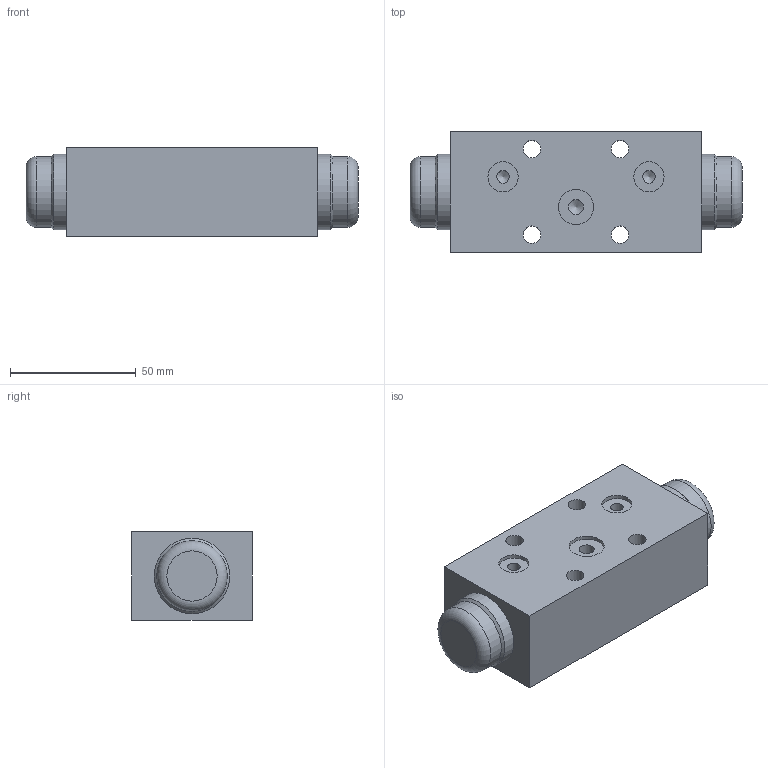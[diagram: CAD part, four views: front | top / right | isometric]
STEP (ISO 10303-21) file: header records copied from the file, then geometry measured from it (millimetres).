
FILE_DESCRIPTION(/* description */ (''),/* implementation_level */ '2;1');
FILE_NAME(/* name */ '19.stp',/* time_stamp */ '2023-05-01T20:41:57+08:00',/* author */ (''),/* organization */ (''),/* preprocessor_version */ 'ST-DEVELOPER v16.7',/* originating_system */ 'SIEMENS PLM Software NX 12.0',/* authorisation */ '');
FILE_SCHEMA (('AUTOMOTIVE_DESIGN { 1 0 10303 214 3 1 1 1 }'));
Length unit declared in the file: millimetre
Products named in the file (1): 19
Bounding box: 132 x 48 x 35 mm (x, y, z)
Volume: 180118.7 mm3; surface area: 29353.2 mm2
Topology: 3 solids, 3 shells, 36 faces, 75 edges, 50 vertices
Faces by surface type: plane 15, cylinder 14, cone 5, torus 2
Full cylindrical faces by diameter (mm): 5 x2, 6 x1, 7 x4, 12 x2, 14 x1, 28 x2, 30 x2
Entity records: 838 total; most frequent: DIRECTION 150, CARTESIAN_POINT 124, ORIENTED_EDGE 88, EDGE_LOOP 70, AXIS2_PLACEMENT_3D 69, FACE_BOUND 65, EDGE_CURVE 44, VERTEX_POINT 43
